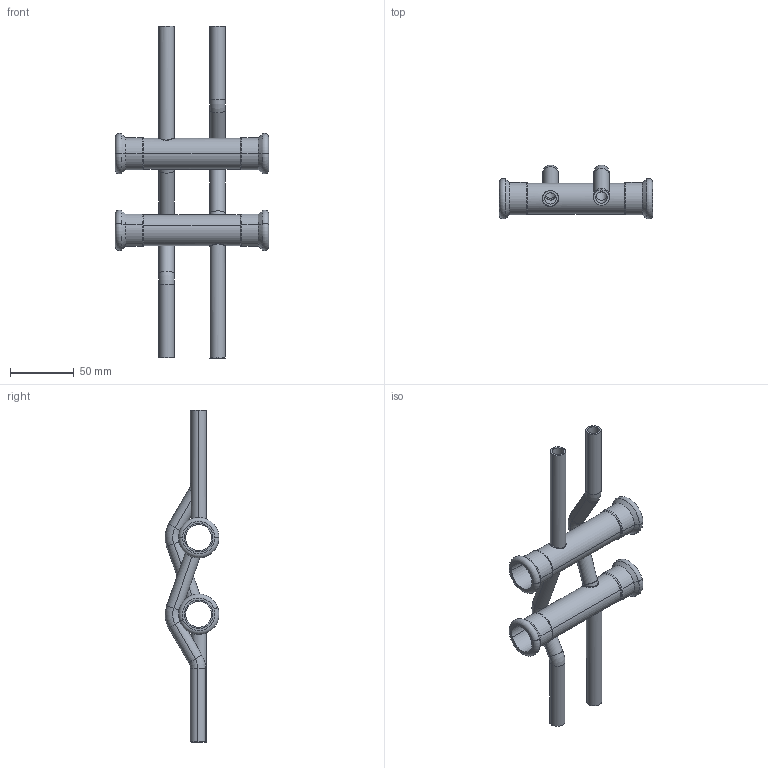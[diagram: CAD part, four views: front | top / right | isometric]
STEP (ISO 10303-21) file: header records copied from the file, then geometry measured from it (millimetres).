
FILE_DESCRIPTION(('CoCreate Modeling STEP Export'),'2;1');
FILE_NAME('C1436 22x12.stp','2015-08-12T 9:48:57',(''),(''),'CoCreate Modeling STEP processor for AP214 (Solid Model)','CoCreate Modeling 17.00A 17-Jun-2010 (C) Parametric Technology GmbH','');
FILE_SCHEMA(('AUTOMOTIVE_DESIGN { 1 0 10303 214 1 1 1 1 }'));
Length unit declared in the file: millimetre
Products named in the file (5): 620868.6.1.2; 620858.7.1.1.1; 620858.7.1.2; 620868.6.1.1.1; C1436-22x12
Assembly tree (4 placements, depth 2):
  C1436-22x12
    620868.6.1.1.1
    620858.7.1.2
    620858.7.1.1.1
    620868.6.1.2
Bounding box: 120 x 42.18 x 260 mm (x, y, z)
Volume: 56263.1 mm3; surface area: 69187.8 mm2
Topology: 4 solids, 4 shells, 148 faces, 322 edges, 194 vertices
Faces by surface type: cylinder 72, torus 32, plane 20, cone 16, bspline 8
Entity records: 11061 total; most frequent: CARTESIAN_POINT 8179, ORIENTED_EDGE 644, DIRECTION 490, EDGE_CURVE 322, AXIS2_PLACEMENT_3D 201, VERTEX_POINT 194, EDGE_LOOP 176, FACE_OUTER_BOUND 148
